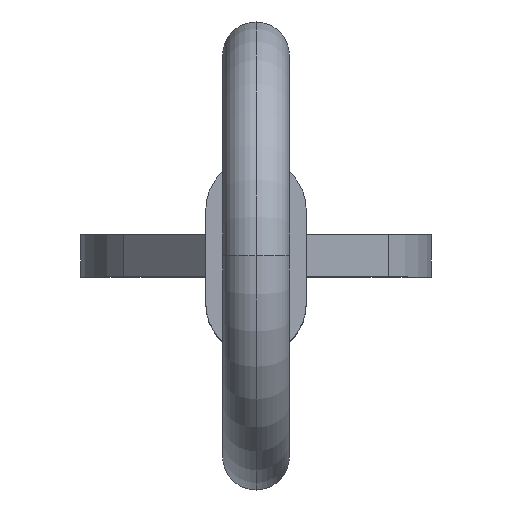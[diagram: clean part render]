
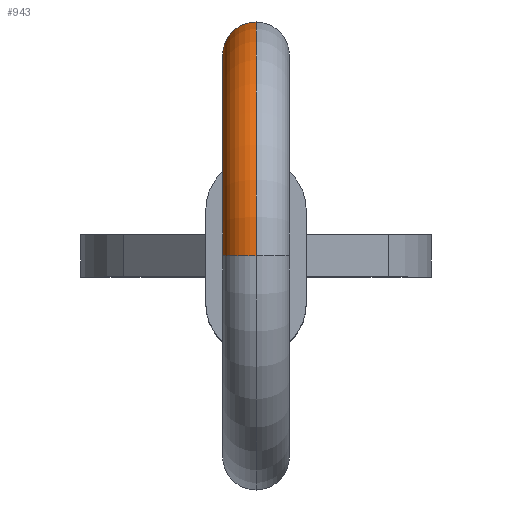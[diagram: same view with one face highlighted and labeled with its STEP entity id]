
A CAD part, top view. The second image highlights one B-rep face of the part: STEP entity #943.
In plain terms, the highlighted toroidal (fillet/blend) face has major radius 4.8 mm and minor radius 0.795 mm.
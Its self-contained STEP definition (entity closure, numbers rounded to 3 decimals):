
#10 = DIRECTION ( 'NONE',  ( -1., 0., 0. ) ) ;
#48 = AXIS2_PLACEMENT_3D ( 'NONE', #266, #629, #123 ) ;
#60 = EDGE_CURVE ( 'NONE', #881, #843, #471, .T. ) ;
#93 = AXIS2_PLACEMENT_3D ( 'NONE', #135, #433, #422 ) ;
#115 = ORIENTED_EDGE ( 'NONE', *, *, #370, .T. ) ;
#123 = DIRECTION ( 'NONE',  ( 0., 0., 1. ) ) ;
#135 = CARTESIAN_POINT ( 'NONE',  ( 0., -1.133, 239. ) ) ;
#166 = VERTEX_POINT ( 'NONE', #734 ) ;
#185 = CARTESIAN_POINT ( 'NONE',  ( 0., -1.133, 244.595 ) ) ;
#191 = EDGE_CURVE ( 'NONE', #951, #166, #427, .T. ) ;
#216 = CIRCLE ( 'NONE', #455, 0.795 ) ;
#231 = AXIS2_PLACEMENT_3D ( 'NONE', #377, #10, #597 ) ;
#266 = CARTESIAN_POINT ( 'NONE',  ( 0., -1.133, 239. ) ) ;
#335 = FACE_OUTER_BOUND ( 'NONE', #889, .T. ) ;
#370 = EDGE_CURVE ( 'NONE', #843, #166, #473, .T. ) ;
#377 = CARTESIAN_POINT ( 'NONE',  ( 0., -1.133, 239. ) ) ;
#422 = DIRECTION ( 'NONE',  ( 0., 0., 1. ) ) ;
#427 = CIRCLE ( 'NONE', #231, 4.005 ) ;
#433 = DIRECTION ( 'NONE',  ( -1., 0., 0. ) ) ;
#455 = AXIS2_PLACEMENT_3D ( 'NONE', #948, #728, #575 ) ;
#471 = CIRCLE ( 'NONE', #93, 5.595 ) ;
#472 = CARTESIAN_POINT ( 'NONE',  ( 0., 3.037, 235.27 ) ) ;
#473 = CIRCLE ( 'NONE', #662, 0.795 ) ;
#575 = DIRECTION ( 'NONE',  ( 0., 0., -1. ) ) ;
#576 = EDGE_CURVE ( 'NONE', #881, #951, #216, .T. ) ;
#597 = DIRECTION ( 'NONE',  ( 0., 0., 1. ) ) ;
#614 = ORIENTED_EDGE ( 'NONE', *, *, #60, .T. ) ;
#629 = DIRECTION ( 'NONE',  ( -1., 0., 0. ) ) ;
#662 = AXIS2_PLACEMENT_3D ( 'NONE', #689, #680, #763 ) ;
#680 = DIRECTION ( 'NONE',  ( 0., 0.667, 0.745 ) ) ;
#689 = CARTESIAN_POINT ( 'NONE',  ( 0., 2.445, 235.8 ) ) ;
#728 = DIRECTION ( 'NONE',  ( 0., -1., 0. ) ) ;
#734 = CARTESIAN_POINT ( 'NONE',  ( 0., 1.852, 236.33 ) ) ;
#763 = DIRECTION ( 'NONE',  ( 1., 0., 0. ) ) ;
#782 = ORIENTED_EDGE ( 'NONE', *, *, #191, .F. ) ;
#786 = TOROIDAL_SURFACE ( 'NONE', #48, 4.8, 0.795 ) ;
#843 = VERTEX_POINT ( 'NONE', #472 ) ;
#881 = VERTEX_POINT ( 'NONE', #185 ) ;
#889 = EDGE_LOOP ( 'NONE', ( #956, #614, #115, #782 ) ) ;
#920 = CARTESIAN_POINT ( 'NONE',  ( 0., -1.133, 243.005 ) ) ;
#943 = ADVANCED_FACE ( 'NONE', ( #335 ), #786, .T. ) ;
#948 = CARTESIAN_POINT ( 'NONE',  ( 0., -1.133, 243.8 ) ) ;
#951 = VERTEX_POINT ( 'NONE', #920 ) ;
#956 = ORIENTED_EDGE ( 'NONE', *, *, #576, .F. ) ;
